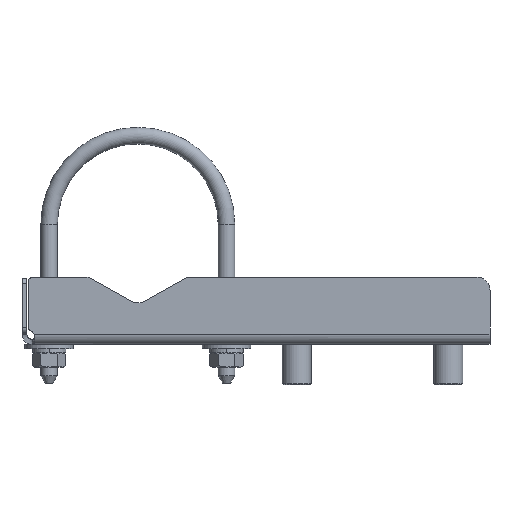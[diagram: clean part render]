
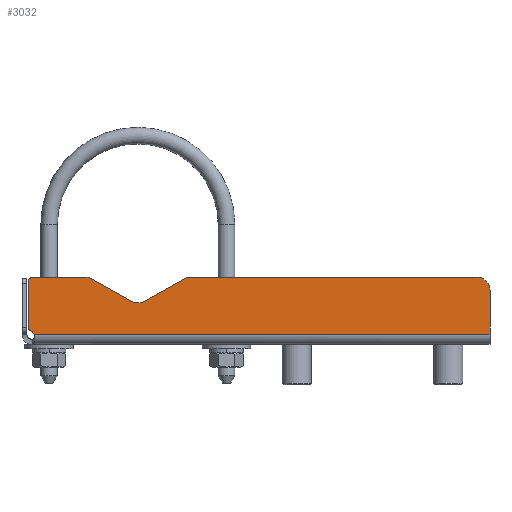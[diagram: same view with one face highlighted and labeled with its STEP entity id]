
A CAD part, left-side view. The second image highlights one B-rep face of the part: STEP entity #3032.
In plain terms, the highlighted planar face has unit normal (-1, 0, 0).
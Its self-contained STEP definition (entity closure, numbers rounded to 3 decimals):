
#341=FACE_OUTER_BOUND('',#534,.T.);
#534=EDGE_LOOP('',(#2374,#2375,#2376,#2377,#2378,#2379,#2380,#2381,#2382,
#2383,#2384,#2385,#2386,#2387));
#749=CIRCLE('',#3422,2.5);
#775=CIRCLE('',#3484,5.);
#776=CIRCLE('',#3485,5.);
#777=CIRCLE('',#3486,5.);
#778=CIRCLE('',#3487,5.);
#779=CIRCLE('',#3488,2.);
#780=CIRCLE('',#3489,2.);
#881=LINE('',#4892,#1102);
#918=LINE('',#5167,#1139);
#969=LINE('',#5399,#1190);
#970=LINE('',#5403,#1191);
#971=LINE('',#5407,#1192);
#972=LINE('',#5411,#1193);
#973=LINE('',#5415,#1194);
#1102=VECTOR('',#3824,10.);
#1139=VECTOR('',#3969,10.);
#1190=VECTOR('',#4148,10.);
#1191=VECTOR('',#4151,10.);
#1192=VECTOR('',#4154,10.);
#1193=VECTOR('',#4157,10.);
#1194=VECTOR('',#4160,10.);
#1356=VERTEX_POINT('',#4889);
#1357=VERTEX_POINT('',#4891);
#1425=VERTEX_POINT('',#5166);
#1426=VERTEX_POINT('',#5183);
#1465=VERTEX_POINT('',#5396);
#1466=VERTEX_POINT('',#5398);
#1467=VERTEX_POINT('',#5400);
#1468=VERTEX_POINT('',#5402);
#1469=VERTEX_POINT('',#5404);
#1470=VERTEX_POINT('',#5406);
#1471=VERTEX_POINT('',#5408);
#1472=VERTEX_POINT('',#5410);
#1473=VERTEX_POINT('',#5412);
#1474=VERTEX_POINT('',#5414);
#1647=EDGE_CURVE('',#1356,#1357,#881,.T.);
#1732=EDGE_CURVE('',#1425,#1357,#918,.T.);
#1735=EDGE_CURVE('',#1425,#1426,#749,.T.);
#1811=EDGE_CURVE('',#1465,#1356,#775,.T.);
#1812=EDGE_CURVE('',#1466,#1465,#969,.T.);
#1813=EDGE_CURVE('',#1467,#1466,#776,.T.);
#1814=EDGE_CURVE('',#1468,#1467,#970,.T.);
#1815=EDGE_CURVE('',#1469,#1468,#777,.T.);
#1816=EDGE_CURVE('',#1470,#1469,#971,.T.);
#1817=EDGE_CURVE('',#1471,#1470,#778,.T.);
#1818=EDGE_CURVE('',#1472,#1471,#972,.T.);
#1819=EDGE_CURVE('',#1473,#1472,#779,.T.);
#1820=EDGE_CURVE('',#1474,#1473,#973,.T.);
#1821=EDGE_CURVE('',#1426,#1474,#780,.T.);
#2374=ORIENTED_EDGE('',*,*,#1732,.T.);
#2375=ORIENTED_EDGE('',*,*,#1647,.F.);
#2376=ORIENTED_EDGE('',*,*,#1811,.F.);
#2377=ORIENTED_EDGE('',*,*,#1812,.F.);
#2378=ORIENTED_EDGE('',*,*,#1813,.F.);
#2379=ORIENTED_EDGE('',*,*,#1814,.F.);
#2380=ORIENTED_EDGE('',*,*,#1815,.F.);
#2381=ORIENTED_EDGE('',*,*,#1816,.F.);
#2382=ORIENTED_EDGE('',*,*,#1817,.F.);
#2383=ORIENTED_EDGE('',*,*,#1818,.F.);
#2384=ORIENTED_EDGE('',*,*,#1819,.F.);
#2385=ORIENTED_EDGE('',*,*,#1820,.F.);
#2386=ORIENTED_EDGE('',*,*,#1821,.F.);
#2387=ORIENTED_EDGE('',*,*,#1735,.F.);
#2916=PLANE('',#3483);
#3032=ADVANCED_FACE('',(#341),#2916,.F.);
#3422=AXIS2_PLACEMENT_3D('',#5184,#3973,#3974);
#3483=AXIS2_PLACEMENT_3D('',#5395,#4144,#4145);
#3484=AXIS2_PLACEMENT_3D('',#5397,#4146,#4147);
#3485=AXIS2_PLACEMENT_3D('',#5401,#4149,#4150);
#3486=AXIS2_PLACEMENT_3D('',#5405,#4152,#4153);
#3487=AXIS2_PLACEMENT_3D('',#5409,#4155,#4156);
#3488=AXIS2_PLACEMENT_3D('',#5413,#4158,#4159);
#3489=AXIS2_PLACEMENT_3D('',#5416,#4161,#4162);
#3824=DIRECTION('',(0.,0.,-1.));
#3969=DIRECTION('',(0.,-1.,0.));
#3973=DIRECTION('center_axis',(-1.,0.,0.));
#3974=DIRECTION('ref_axis',(0.,0.444,-0.896));
#4144=DIRECTION('center_axis',(1.,0.,0.));
#4145=DIRECTION('ref_axis',(0.,0.,
-1.));
#4146=DIRECTION('center_axis',(1.,0.,0.));
#4147=DIRECTION('ref_axis',(0.,0.,
1.));
#4148=DIRECTION('',(0.,-1.,0.));
#4149=DIRECTION('center_axis',(1.,0.,0.));
#4150=DIRECTION('ref_axis',(0.,0.487,0.873));
#4151=DIRECTION('',(0.,-0.873,0.487));
#4152=DIRECTION('center_axis',(-1.,0.,0.));
#4153=DIRECTION('ref_axis',(0.,0.487,0.873));
#4154=DIRECTION('',(0.,-0.873,-0.487));
#4155=DIRECTION('center_axis',(1.,0.,0.));
#4156=DIRECTION('ref_axis',(0.,0.,1.));
#4157=DIRECTION('',(0.,-1.,0.));
#4158=DIRECTION('center_axis',(1.,0.,0.));
#4159=DIRECTION('ref_axis',(0.,1.,0.));
#4160=DIRECTION('',(0.,0.,1.));
#4161=DIRECTION('center_axis',(1.,0.,0.));
#4162=DIRECTION('ref_axis',(0.,0.444,-0.896));
#4889=CARTESIAN_POINT('',(-44.9,-44.666,20.758));
#4891=CARTESIAN_POINT('',(-44.9,-44.666,3.9));
#4892=CARTESIAN_POINT('',(-44.9,-44.666,20.758));
#5166=CARTESIAN_POINT('',(-44.9,130.11,3.9));
#5167=CARTESIAN_POINT('',(-44.9,28.081,3.9));
#5183=CARTESIAN_POINT('',(-44.9,131.223,4.998));
#5184=CARTESIAN_POINT('Origin',(-44.9,132.334,2.758));
#5395=CARTESIAN_POINT('Origin',(-44.9,56.162,-40.242));
#5396=CARTESIAN_POINT('',(-44.9,-39.666,25.758));
#5397=CARTESIAN_POINT('Origin',(-44.9,-39.666,20.758));
#5398=CARTESIAN_POINT('',(-44.9,70.001,25.758));
#5399=CARTESIAN_POINT('',(-44.9,70.001,25.758));
#5400=CARTESIAN_POINT('',(-44.9,72.438,25.124));
#5401=CARTESIAN_POINT('Origin',(-44.9,70.001,20.758));
#5402=CARTESIAN_POINT('',(-44.9,87.897,16.496));
#5403=CARTESIAN_POINT('',(-44.9,87.897,16.496));
#5404=CARTESIAN_POINT('',(-44.9,92.771,16.496));
#5405=CARTESIAN_POINT('Origin',(-44.9,90.334,20.862));
#5406=CARTESIAN_POINT('',(-44.9,108.23,25.124));
#5407=CARTESIAN_POINT('',(-44.9,108.23,25.124));
#5408=CARTESIAN_POINT('',(-44.9,110.667,25.758));
#5409=CARTESIAN_POINT('Origin',(-44.9,110.667,20.758));
#5410=CARTESIAN_POINT('',(-44.9,130.334,25.758));
#5411=CARTESIAN_POINT('',(-44.9,130.334,25.758));
#5412=CARTESIAN_POINT('',(-44.9,132.334,23.758));
#5413=CARTESIAN_POINT('Origin',(-44.9,130.334,23.758));
#5414=CARTESIAN_POINT('',(-44.9,132.334,6.79));
#5415=CARTESIAN_POINT('',(-44.9,132.334,6.79));
#5416=CARTESIAN_POINT('Origin',(-44.9,130.334,6.79));
